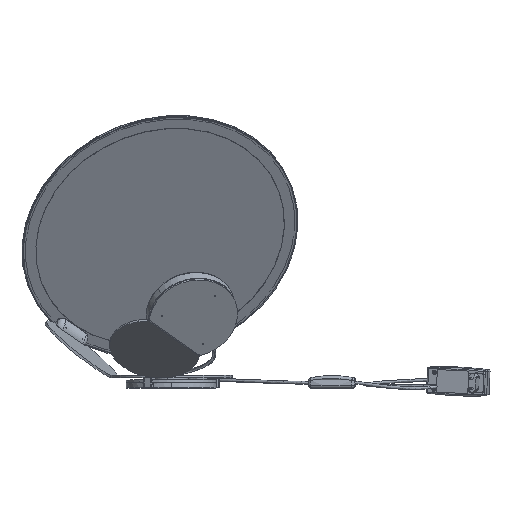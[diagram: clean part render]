
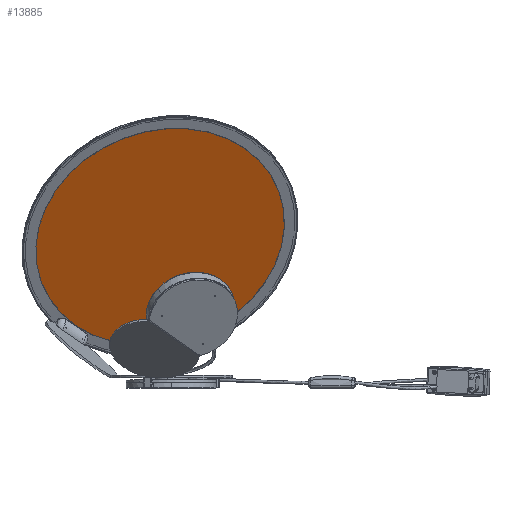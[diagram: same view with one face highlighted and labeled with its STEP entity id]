
A CAD part, top view. The second image highlights one B-rep face of the part: STEP entity #13885.
In plain terms, the highlighted planar face has unit normal (0.21, -0.524, 0.826) as drawn and (0, -1, 0) by its records, which use the part's own axes.
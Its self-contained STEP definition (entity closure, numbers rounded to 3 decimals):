
#3390 = AXIS2_PLACEMENT_3D ( 'NONE', #34448, #12181, #32389 ) ;
#3730 = CARTESIAN_POINT ( 'NONE',  ( 0., 0., 0. ) ) ;
#4371 = AXIS2_PLACEMENT_3D ( 'NONE', #33536, #36339, #13164 ) ;
#4661 = CARTESIAN_POINT ( 'NONE',  ( -241.466, 0., 35.071 ) ) ;
#4767 = CARTESIAN_POINT ( 'NONE',  ( -235.684, 0., -25. ) ) ;
#4928 = FACE_OUTER_BOUND ( 'NONE', #22071, .T. ) ;
#6170 = DIRECTION ( 'NONE',  ( 0., 1., 0. ) ) ;
#6361 = DIRECTION ( 'NONE',  ( 0., 1., 0. ) ) ;
#7938 = PLANE ( 'NONE',  #24383 ) ;
#7982 = ORIENTED_EDGE ( 'NONE', *, *, #30661, .F. ) ;
#9674 = CARTESIAN_POINT ( 'NONE',  ( 0., 0., 35.071 ) ) ;
#9991 = CIRCLE ( 'NONE', #27316, 244. ) ;
#10757 = ORIENTED_EDGE ( 'NONE', *, *, #31283, .F. ) ;
#11175 = CIRCLE ( 'NONE', #3390, 10.093 ) ;
#11456 = ORIENTED_EDGE ( 'NONE', *, *, #30702, .F. ) ;
#12181 = DIRECTION ( 'NONE',  ( 0., -1., 0. ) ) ;
#12392 = CIRCLE ( 'NONE', #20183, 244. ) ;
#12506 = AXIS2_PLACEMENT_3D ( 'NONE', #4767, #36033, #19562 ) ;
#12941 = ORIENTED_EDGE ( 'NONE', *, *, #29186, .F. ) ;
#13164 = DIRECTION ( 'NONE',  ( 0., 0., 1. ) ) ;
#13543 = CARTESIAN_POINT ( 'NONE',  ( -225.684, 0., -25. ) ) ;
#13885 = ADVANCED_FACE ( 'NONE', ( #4928 ), #7938, .F. ) ;
#14112 = DIRECTION ( 'NONE',  ( 0., 1., 0. ) ) ;
#14309 = CIRCLE ( 'NONE', #12506, 10. ) ;
#14470 = CARTESIAN_POINT ( 'NONE',  ( -235.684, 0., -35. ) ) ;
#16685 = DIRECTION ( 'NONE',  ( 0., 0., 1. ) ) ;
#17264 = VECTOR ( 'NONE', #28007, 1000. ) ;
#19235 = LINE ( 'NONE', #24673, #17264 ) ;
#19562 = DIRECTION ( 'NONE',  ( 0., 0., 1. ) ) ;
#19716 = VERTEX_POINT ( 'NONE', #4661 ) ;
#19921 = CARTESIAN_POINT ( 'NONE',  ( 0., 0., 0. ) ) ;
#20183 = AXIS2_PLACEMENT_3D ( 'NONE', #3730, #6361, #23045 ) ;
#20824 = EDGE_CURVE ( 'NONE', #27759, #26251, #24713, .T. ) ;
#20877 = CARTESIAN_POINT ( 'NONE',  ( 0., 0., -244. ) ) ;
#21515 = CARTESIAN_POINT ( 'NONE',  ( -241.477, 0., -35. ) ) ;
#21905 = VECTOR ( 'NONE', #23906, 1000. ) ;
#21920 = CARTESIAN_POINT ( 'NONE',  ( 0., 0., 244. ) ) ;
#22071 = EDGE_LOOP ( 'NONE', ( #10757, #7982, #22804, #36933, #12941, #11456, #24288, #23941 ) ) ;
#22657 = VERTEX_POINT ( 'NONE', #30476 ) ;
#22804 = ORIENTED_EDGE ( 'NONE', *, *, #20824, .F. ) ;
#23045 = DIRECTION ( 'NONE',  ( 0., 0., 1. ) ) ;
#23906 = DIRECTION ( 'NONE',  ( -1., 0., 0. ) ) ;
#23941 = ORIENTED_EDGE ( 'NONE', *, *, #31484, .F. ) ;
#24288 = ORIENTED_EDGE ( 'NONE', *, *, #25407, .F. ) ;
#24383 = AXIS2_PLACEMENT_3D ( 'NONE', #19921, #14112, #34496 ) ;
#24416 = VERTEX_POINT ( 'NONE', #32604 ) ;
#24673 = CARTESIAN_POINT ( 'NONE',  ( 0., 0., -35. ) ) ;
#24713 = CIRCLE ( 'NONE', #4371, 244. ) ;
#25407 = EDGE_CURVE ( 'NONE', #33302, #24416, #25466, .T. ) ;
#25466 = LINE ( 'NONE', #36330, #28967 ) ;
#25844 = DIRECTION ( 'NONE',  ( 0., 0., 1. ) ) ;
#26251 = VERTEX_POINT ( 'NONE', #20877 ) ;
#27316 = AXIS2_PLACEMENT_3D ( 'NONE', #34638, #6170, #25844 ) ;
#27759 = VERTEX_POINT ( 'NONE', #21920 ) ;
#28007 = DIRECTION ( 'NONE',  ( 1., 0., 0. ) ) ;
#28967 = VECTOR ( 'NONE', #16685, 1000. ) ;
#29186 = EDGE_CURVE ( 'NONE', #22657, #19716, #29493, .T. ) ;
#29493 = LINE ( 'NONE', #9674, #21905 ) ;
#29893 = VERTEX_POINT ( 'NONE', #21515 ) ;
#30476 = CARTESIAN_POINT ( 'NONE',  ( -235.778, 0., 35.071 ) ) ;
#30644 = EDGE_CURVE ( 'NONE', #19716, #27759, #12392, .T. ) ;
#30661 = EDGE_CURVE ( 'NONE', #26251, #29893, #9991, .T. ) ;
#30702 = EDGE_CURVE ( 'NONE', #24416, #22657, #11175, .T. ) ;
#31283 = EDGE_CURVE ( 'NONE', #29893, #33584, #19235, .T. ) ;
#31484 = EDGE_CURVE ( 'NONE', #33584, #33302, #14309, .T. ) ;
#32389 = DIRECTION ( 'NONE',  ( 0., 0., 1. ) ) ;
#32604 = CARTESIAN_POINT ( 'NONE',  ( -225.684, 0., 24.977 ) ) ;
#33302 = VERTEX_POINT ( 'NONE', #13543 ) ;
#33536 = CARTESIAN_POINT ( 'NONE',  ( 0., 0., 0. ) ) ;
#33584 = VERTEX_POINT ( 'NONE', #14470 ) ;
#34448 = CARTESIAN_POINT ( 'NONE',  ( -235.778, 0., 24.977 ) ) ;
#34496 = DIRECTION ( 'NONE',  ( 1., 0., 0. ) ) ;
#34638 = CARTESIAN_POINT ( 'NONE',  ( 0., 0., 0. ) ) ;
#36033 = DIRECTION ( 'NONE',  ( 0., -1., 0. ) ) ;
#36330 = CARTESIAN_POINT ( 'NONE',  ( -225.684, 0., 0. ) ) ;
#36339 = DIRECTION ( 'NONE',  ( 0., 1., 0. ) ) ;
#36933 = ORIENTED_EDGE ( 'NONE', *, *, #30644, .F. ) ;
